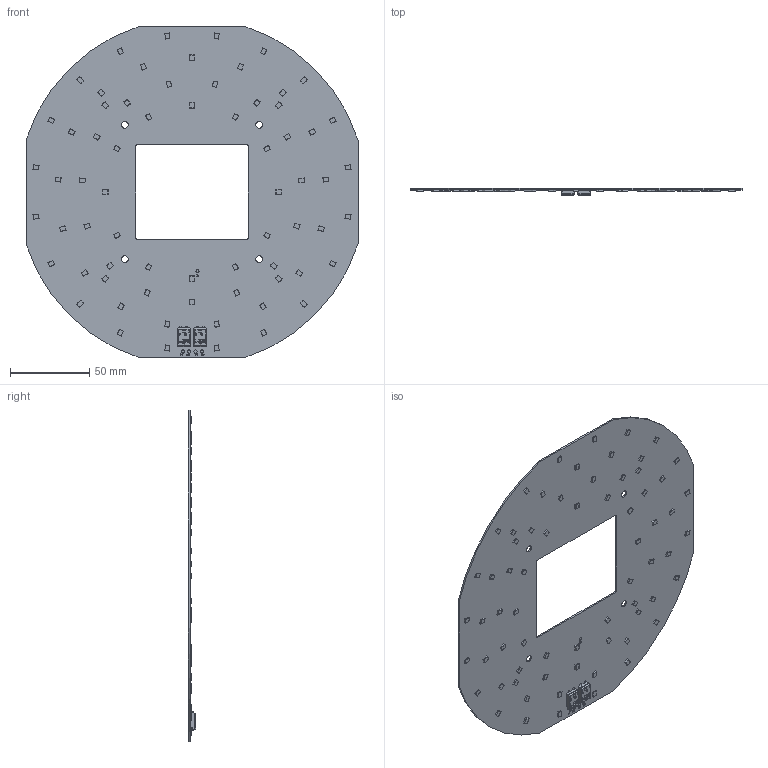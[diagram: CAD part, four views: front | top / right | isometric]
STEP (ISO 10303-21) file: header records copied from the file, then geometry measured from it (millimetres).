
FILE_DESCRIPTION(/* description */ ('Unknown'),/* implementation_level */ '2;1');
FILE_NAME(/* name */ '1010-117-22100 Sh-000 2017-08-25',/* time_stamp */ '2017-08-28T14:21:24+02:00',/* author */ ('Unknown'),/* organization */ ('Unknown'),/* preprocessor_version */ 'ST-DEVELOPER v16.7',/* originating_system */ 'DEX',/* authorisation */ $);
FILE_SCHEMA (('AUTOMOTIVE_DESIGN {1 0 10303 214 3 1 1}'));
Length unit declared in the file: millimetre
Products named in the file (4): RdLed 220 emg ssw; PCB RdLed 220 emg ssw; LED 2835; 4010-411-12610 Sh-000 2016-11-03
Assembly tree (71 placements, depth 2):
  RdLed 220 emg ssw
    PCB RdLed 220 emg ssw
    LED 2835  x68
    4010-411-12610 Sh-000 2016-11-03  x2
Bounding box: 210 x 4.5 x 210 mm (x, y, z)
Volume: 33882.2 mm3; surface area: 69530.8 mm2
Topology: 71 solids, 71 shells, 2092 faces, 5255 edges, 3394 vertices
Faces by surface type: plane 1569, cylinder 237, bspline 192, cone 52, torus 22, sphere 20
Full cylindrical faces by diameter (mm): 2 x5, 4.3 x4
Entity records: 23455 total; most frequent: CARTESIAN_POINT 6990, ORIENTED_EDGE 2726, DIRECTION 2240, EDGE_CURVE 1363, VERTEX_POINT 867, AXIS2_PLACEMENT_3D 749, LINE 742, VECTOR 742
